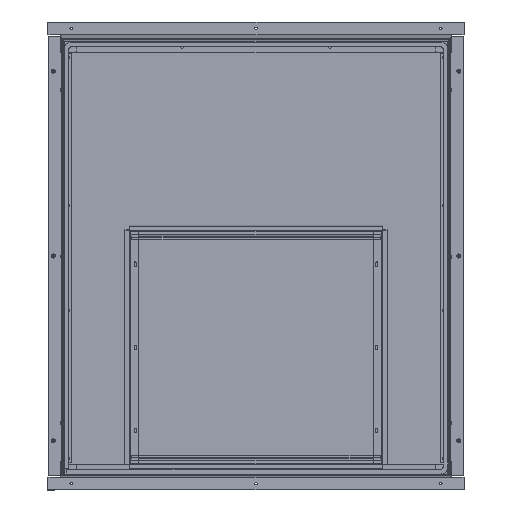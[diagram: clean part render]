
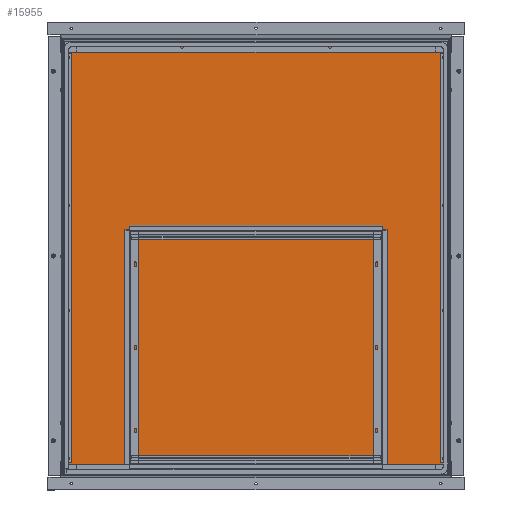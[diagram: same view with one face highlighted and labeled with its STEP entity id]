
A CAD part, top view. The second image highlights one B-rep face of the part: STEP entity #15955.
In plain terms, the highlighted planar face has unit normal (0, -0.012, 1) as drawn and (0, 0, -1) by its records, which use the part's own axes.
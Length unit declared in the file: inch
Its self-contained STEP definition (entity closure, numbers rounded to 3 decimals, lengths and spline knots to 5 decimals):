
#208 = DIRECTION ( 'NONE',  ( 0., 0., 1. ) ) ;
#285 = DIRECTION ( 'NONE',  ( 1., 0., 0. ) ) ;
#322 = DIRECTION ( 'NONE',  ( 0., 0., 1. ) ) ;
#341 = CARTESIAN_POINT ( 'NONE',  ( 23.36398, 43.28991, -0.023 ) ) ;
#348 = CARTESIAN_POINT ( 'NONE',  ( -17.51102, 4.03991, -0.023 ) ) ;
#442 = FACE_OUTER_BOUND ( 'NONE', #20810, .T. ) ;
#509 = DIRECTION ( 'NONE',  ( 1., 0., 0. ) ) ;
#1264 = CARTESIAN_POINT ( 'NONE',  ( 23.78585, -0.00906, -0.023 ) ) ;
#1326 = DIRECTION ( 'NONE',  ( 0., 1., 0. ) ) ;
#1917 = EDGE_CURVE ( 'NONE', #7461, #10056, #18434, .T. ) ;
#1986 = VERTEX_POINT ( 'NONE', #4072 ) ;
#2160 = DIRECTION ( 'NONE',  ( 1., 0., 0. ) ) ;
#2450 = CARTESIAN_POINT ( 'NONE',  ( -17.9329, -0.00906, -0.023 ) ) ;
#2890 = VERTEX_POINT ( 'NONE', #8473 ) ;
#3297 = CARTESIAN_POINT ( 'NONE',  ( 23.36398, 4.03991, -0.023 ) ) ;
#3759 = VECTOR ( 'NONE', #6499, 39.37008 ) ;
#3960 = ORIENTED_EDGE ( 'NONE', *, *, #1917, .F. ) ;
#4072 = CARTESIAN_POINT ( 'NONE',  ( -17.38602, 4.03991, -0.023 ) ) ;
#4274 = DIRECTION ( 'NONE',  ( 1., 0., 0. ) ) ;
#4327 = ORIENTED_EDGE ( 'NONE', *, *, #17193, .F. ) ;
#4356 = ORIENTED_EDGE ( 'NONE', *, *, #5497, .T. ) ;
#4391 = AXIS2_PLACEMENT_3D ( 'NONE', #9418, #9412, #9382 ) ;
#4467 = VECTOR ( 'NONE', #1326, 39.37008 ) ;
#4631 = AXIS2_PLACEMENT_3D ( 'NONE', #21568, #21538, #21513 ) ;
#4846 = ORIENTED_EDGE ( 'NONE', *, *, #8207, .T. ) ;
#4952 = LINE ( 'NONE', #12049, #3759 ) ;
#5123 = DIRECTION ( 'NONE',  ( 1., 0., 0. ) ) ;
#5154 = DIRECTION ( 'NONE',  ( 1., 0., 0. ) ) ;
#5220 = DIRECTION ( 'NONE',  ( 0., 0., 1. ) ) ;
#5237 = CARTESIAN_POINT ( 'NONE',  ( 23.36398, 43.28991, -0.023 ) ) ;
#5447 = FACE_BOUND ( 'NONE', #14546, .T. ) ;
#5497 = EDGE_CURVE ( 'NONE', #6660, #1986, #16112, .T. ) ;
#5598 = VERTEX_POINT ( 'NONE', #16252 ) ;
#5636 = CARTESIAN_POINT ( 'NONE',  ( 23.23898, 4.03991, -0.023 ) ) ;
#6063 = VECTOR ( 'NONE', #7710, 39.37008 ) ;
#6221 = CARTESIAN_POINT ( 'NONE',  ( 23.48898, 43.28991, -0.023 ) ) ;
#6222 = CIRCLE ( 'NONE', #4391, 0.125 ) ;
#6333 = FACE_BOUND ( 'NONE', #12783, .T. ) ;
#6499 = DIRECTION ( 'NONE',  ( 0., -1., 0. ) ) ;
#6572 = DIRECTION ( 'NONE',  ( 0., 0., 1. ) ) ;
#6660 = VERTEX_POINT ( 'NONE', #22397 ) ;
#7071 = AXIS2_PLACEMENT_3D ( 'NONE', #341, #13151, #2160 ) ;
#7293 = DIRECTION ( 'NONE',  ( 0., 0., 1. ) ) ;
#7438 = CARTESIAN_POINT ( 'NONE',  ( -17.9329, 47.33889, -0.023 ) ) ;
#7461 = VERTEX_POINT ( 'NONE', #1264 ) ;
#7710 = DIRECTION ( 'NONE',  ( -1., 0., 0. ) ) ;
#7795 = ORIENTED_EDGE ( 'NONE', *, *, #11882, .T. ) ;
#7926 = AXIS2_PLACEMENT_3D ( 'NONE', #3297, #16117, #5123 ) ;
#7930 = DIRECTION ( 'NONE',  ( 1., 0., 0. ) ) ;
#8207 = EDGE_CURVE ( 'NONE', #19536, #16844, #12263, .T. ) ;
#8473 = CARTESIAN_POINT ( 'NONE',  ( 23.48898, 4.03991, -0.023 ) ) ;
#8763 = EDGE_LOOP ( 'NONE', ( #23136, #11810 ) ) ;
#8809 = ORIENTED_EDGE ( 'NONE', *, *, #11430, .T. ) ;
#9085 = VECTOR ( 'NONE', #7930, 39.37008 ) ;
#9189 = AXIS2_PLACEMENT_3D ( 'NONE', #14890, #6572, #509 ) ;
#9382 = DIRECTION ( 'NONE',  ( 1., 0., 0. ) ) ;
#9407 = EDGE_CURVE ( 'NONE', #10056, #17933, #12591, .T. ) ;
#9412 = DIRECTION ( 'NONE',  ( 0., 0., 1. ) ) ;
#9418 = CARTESIAN_POINT ( 'NONE',  ( -17.51102, 43.28991, -0.023 ) ) ;
#9597 = VERTEX_POINT ( 'NONE', #5636 ) ;
#9976 = FACE_BOUND ( 'NONE', #8763, .T. ) ;
#10056 = VERTEX_POINT ( 'NONE', #18454 ) ;
#10541 = ORIENTED_EDGE ( 'NONE', *, *, #12118, .T. ) ;
#10967 = CARTESIAN_POINT ( 'NONE',  ( 23.36398, 4.03991, -0.023 ) ) ;
#11226 = CARTESIAN_POINT ( 'NONE',  ( -17.63602, 43.28991, -0.023 ) ) ;
#11430 = EDGE_CURVE ( 'NONE', #16844, #19536, #6222, .T. ) ;
#11797 = VERTEX_POINT ( 'NONE', #6221 ) ;
#11810 = ORIENTED_EDGE ( 'NONE', *, *, #16385, .T. ) ;
#11882 = EDGE_CURVE ( 'NONE', #11797, #5598, #18640, .T. ) ;
#12049 = CARTESIAN_POINT ( 'NONE',  ( -17.9329, -0.00906, -0.023 ) ) ;
#12118 = EDGE_CURVE ( 'NONE', #1986, #6660, #19221, .T. ) ;
#12263 = CIRCLE ( 'NONE', #4631, 0.125 ) ;
#12328 = EDGE_CURVE ( 'NONE', #2890, #9597, #19826, .T. ) ;
#12346 = LINE ( 'NONE', #14631, #9085 ) ;
#12591 = LINE ( 'NONE', #7438, #6063 ) ;
#12783 = EDGE_LOOP ( 'NONE', ( #7795, #13206 ) ) ;
#13151 = DIRECTION ( 'NONE',  ( 0., 0., 1. ) ) ;
#13206 = ORIENTED_EDGE ( 'NONE', *, *, #19020, .T. ) ;
#13295 = CARTESIAN_POINT ( 'NONE',  ( -17.9329, 47.33889, -0.023 ) ) ;
#13790 = EDGE_LOOP ( 'NONE', ( #8809, #4846 ) ) ;
#13927 = CARTESIAN_POINT ( 'NONE',  ( -17.38602, 43.28991, -0.023 ) ) ;
#14092 = AXIS2_PLACEMENT_3D ( 'NONE', #10967, #208, #4274 ) ;
#14546 = EDGE_LOOP ( 'NONE', ( #10541, #4356 ) ) ;
#14623 = CIRCLE ( 'NONE', #7071, 0.125 ) ;
#14631 = CARTESIAN_POINT ( 'NONE',  ( -17.9329, -0.00906, -0.023 ) ) ;
#14710 = CARTESIAN_POINT ( 'NONE',  ( -17.9329, -0.00906, -0.023 ) ) ;
#14814 = EDGE_CURVE ( 'NONE', #22077, #7461, #12346, .T. ) ;
#14890 = CARTESIAN_POINT ( 'NONE',  ( -17.51102, 4.03991, -0.023 ) ) ;
#15095 = CARTESIAN_POINT ( 'NONE',  ( 23.78585, -0.00906, -0.023 ) ) ;
#15493 = FACE_BOUND ( 'NONE', #13790, .T. ) ;
#15955 = ADVANCED_FACE ( 'NONE', ( #442, #15493, #6333, #5447, #9976 ), #16532, .F. ) ;
#16112 = CIRCLE ( 'NONE', #9189, 0.125 ) ;
#16117 = DIRECTION ( 'NONE',  ( 0., 0., 1. ) ) ;
#16252 = CARTESIAN_POINT ( 'NONE',  ( 23.23898, 43.28991, -0.023 ) ) ;
#16385 = EDGE_CURVE ( 'NONE', #9597, #2890, #23570, .T. ) ;
#16532 = PLANE ( 'NONE',  #19963 ) ;
#16844 = VERTEX_POINT ( 'NONE', #13927 ) ;
#17193 = EDGE_CURVE ( 'NONE', #17933, #22077, #4952, .T. ) ;
#17715 = ORIENTED_EDGE ( 'NONE', *, *, #9407, .F. ) ;
#17933 = VERTEX_POINT ( 'NONE', #13295 ) ;
#18378 = DIRECTION ( 'NONE',  ( 1., 0., 0. ) ) ;
#18434 = LINE ( 'NONE', #15095, #4467 ) ;
#18454 = CARTESIAN_POINT ( 'NONE',  ( 23.78585, 47.33889, -0.023 ) ) ;
#18640 = CIRCLE ( 'NONE', #19923, 0.125 ) ;
#19020 = EDGE_CURVE ( 'NONE', #5598, #11797, #14623, .T. ) ;
#19221 = CIRCLE ( 'NONE', #21878, 0.125 ) ;
#19536 = VERTEX_POINT ( 'NONE', #11226 ) ;
#19826 = CIRCLE ( 'NONE', #14092, 0.125 ) ;
#19923 = AXIS2_PLACEMENT_3D ( 'NONE', #5237, #5220, #5154 ) ;
#19963 = AXIS2_PLACEMENT_3D ( 'NONE', #14710, #7293, #18378 ) ;
#20810 = EDGE_LOOP ( 'NONE', ( #17715, #3960, #21163, #4327 ) ) ;
#21163 = ORIENTED_EDGE ( 'NONE', *, *, #14814, .F. ) ;
#21513 = DIRECTION ( 'NONE',  ( 1., 0., 0. ) ) ;
#21538 = DIRECTION ( 'NONE',  ( 0., 0., 1. ) ) ;
#21568 = CARTESIAN_POINT ( 'NONE',  ( -17.51102, 43.28991, -0.023 ) ) ;
#21878 = AXIS2_PLACEMENT_3D ( 'NONE', #348, #322, #285 ) ;
#22077 = VERTEX_POINT ( 'NONE', #2450 ) ;
#22397 = CARTESIAN_POINT ( 'NONE',  ( -17.63602, 4.03991, -0.023 ) ) ;
#23136 = ORIENTED_EDGE ( 'NONE', *, *, #12328, .T. ) ;
#23570 = CIRCLE ( 'NONE', #7926, 0.125 ) ;
